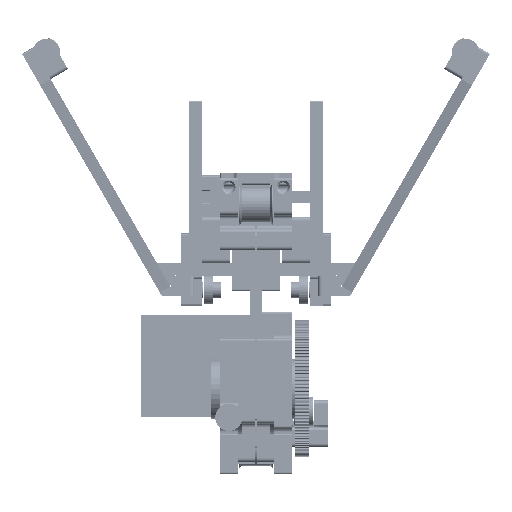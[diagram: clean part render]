
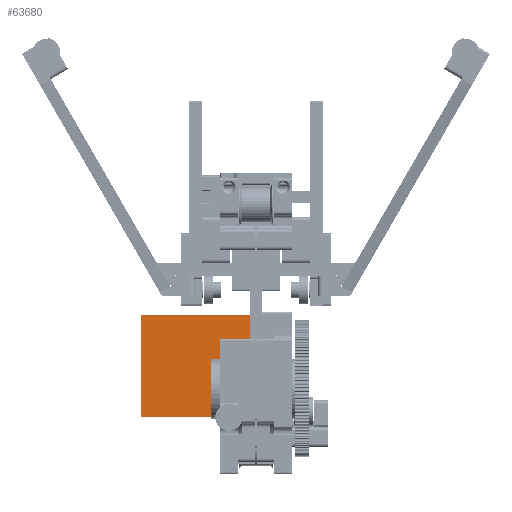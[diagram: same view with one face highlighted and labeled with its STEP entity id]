
A CAD part, front view. The second image highlights one B-rep face of the part: STEP entity #63680.
In plain terms, the highlighted planar face has unit normal (0, -1, 0).
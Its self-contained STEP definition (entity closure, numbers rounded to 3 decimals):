
#2953=PLANE('',#71256);
#6209=FACE_OUTER_BOUND('',#10653,.T.);
#10653=EDGE_LOOP('',(#57756,#57757,#57758,#57759));
#15367=LINE('',#112718,#20085);
#15368=LINE('',#112721,#20086);
#15369=LINE('',#112723,#20087);
#15370=LINE('',#112724,#20088);
#20085=VECTOR('',#90600,10.);
#20086=VECTOR('',#90603,10.);
#20087=VECTOR('',#90604,10.);
#20088=VECTOR('',#90605,10.);
#30356=VERTEX_POINT('',#112714);
#30357=VERTEX_POINT('',#112716);
#30358=VERTEX_POINT('',#112720);
#30359=VERTEX_POINT('',#112722);
#39525=EDGE_CURVE('',#30356,#30357,#15367,.T.);
#39526=EDGE_CURVE('',#30356,#30358,#15368,.T.);
#39527=EDGE_CURVE('',#30359,#30357,#15369,.T.);
#39528=EDGE_CURVE('',#30358,#30359,#15370,.T.);
#57756=ORIENTED_EDGE('',*,*,#39526,.F.);
#57757=ORIENTED_EDGE('',*,*,#39525,.T.);
#57758=ORIENTED_EDGE('',*,*,#39527,.F.);
#57759=ORIENTED_EDGE('',*,*,#39528,.F.);
#63680=ADVANCED_FACE('',(#6209),#2953,.T.);
#71256=AXIS2_PLACEMENT_3D('',#112719,#90601,#90602);
#90600=DIRECTION('',(0.,0.,1.));
#90601=DIRECTION('center_axis',(0.,-1.,0.));
#90602=DIRECTION('ref_axis',(1.,0.,0.));
#90603=DIRECTION('',(-1.,0.,0.));
#90604=DIRECTION('',(1.,0.,0.));
#90605=DIRECTION('',(0.,0.,1.));
#112714=CARTESIAN_POINT('',(40.832,29.432,-12.4));
#112716=CARTESIAN_POINT('',(40.832,29.432,63.6));
#112718=CARTESIAN_POINT('',(40.832,29.432,-12.4));
#112719=CARTESIAN_POINT('Origin',(-15.568,29.432,-12.4));
#112720=CARTESIAN_POINT('',(-15.568,29.432,-12.4));
#112721=CARTESIAN_POINT('',(-1.468,29.432,-12.4));
#112722=CARTESIAN_POINT('',(-15.568,29.432,63.6));
#112723=CARTESIAN_POINT('',(-1.468,29.432,63.6));
#112724=CARTESIAN_POINT('',(-15.568,29.432,-12.4));
